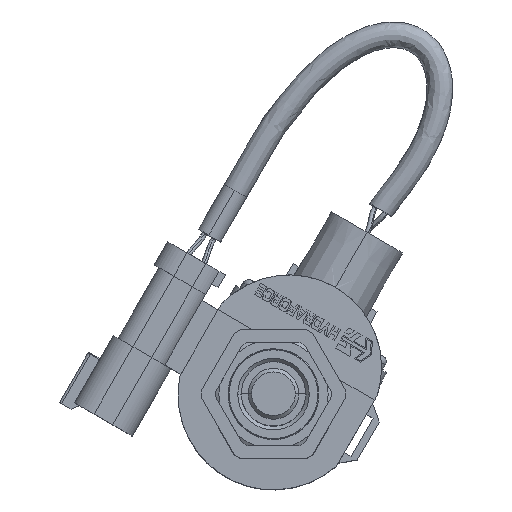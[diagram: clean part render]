
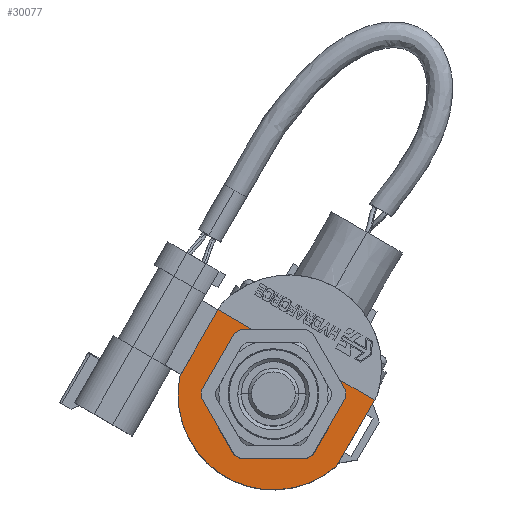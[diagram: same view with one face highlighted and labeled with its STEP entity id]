
A CAD part, top view. The second image highlights one B-rep face of the part: STEP entity #30077.
In plain terms, the highlighted planar face has unit normal (0, 0, 1).
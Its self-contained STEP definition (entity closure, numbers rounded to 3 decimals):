
#10391=CARTESIAN_POINT('',(0.,0.,24.384));
#10392=DIRECTION('',(0.,0.,1.));
#10393=DIRECTION('',(-0.803,0.596,0.));
#10394=AXIS2_PLACEMENT_3D('',#10391,#10392,#10393);
#10396=CARTESIAN_POINT('',(0.,0.,24.384));
#10397=DIRECTION('',(0.,0.,1.));
#10398=DIRECTION('',(-1.,0.,0.));
#10399=AXIS2_PLACEMENT_3D('',#10396,#10397,#10398);
#10401=CARTESIAN_POINT('',(0.,0.,24.384));
#10402=DIRECTION('',(0.,0.,1.));
#10403=DIRECTION('',(1.,0.,0.));
#10404=AXIS2_PLACEMENT_3D('',#10401,#10402,#10403);
#10406=DIRECTION('',(0.,1.,0.));
#10407=VECTOR('',#10406,2.921);
#10408=CARTESIAN_POINT('',(11.214,8.331,24.384));
#10409=LINE('',#10408,#10407);
#10410=DIRECTION('',(1.,0.,0.));
#10411=VECTOR('',#10410,11.062);
#10412=CARTESIAN_POINT('',(11.214,11.252,24.384));
#10413=LINE('',#10412,#10411);
#10414=DIRECTION('',(0.,-1.,0.));
#10415=VECTOR('',#10414,18.923);
#10416=CARTESIAN_POINT('',(22.276,11.252,24.384));
#10417=LINE('',#10416,#10415);
#10418=CARTESIAN_POINT('',(0.,0.,24.384));
#10419=DIRECTION('',(0.,0.,-1.));
#10420=DIRECTION('',(0.946,-0.326,0.));
#10421=AXIS2_PLACEMENT_3D('',#10418,#10419,#10420);
#10423=DIRECTION('',(0.,1.,0.));
#10424=VECTOR('',#10423,18.923);
#10425=CARTESIAN_POINT('',(-22.276,-7.671,24.384));
#10426=LINE('',#10425,#10424);
#10427=DIRECTION('',(1.,0.,0.));
#10428=VECTOR('',#10427,11.062);
#10429=CARTESIAN_POINT('',(-22.276,11.252,24.384));
#10430=LINE('',#10429,#10428);
#10431=DIRECTION('',(0.,-1.,0.));
#10432=VECTOR('',#10431,2.921);
#10433=CARTESIAN_POINT('',(-11.214,11.252,24.384));
#10434=LINE('',#10433,#10432);
#19620=CARTESIAN_POINT('',(-22.276,11.252,24.384));
#19621=VERTEX_POINT('',#19620);
#19622=CARTESIAN_POINT('',(-22.276,-7.671,24.384));
#19623=VERTEX_POINT('',#19622);
#19634=CARTESIAN_POINT('',(-11.214,8.331,24.384));
#19635=CARTESIAN_POINT('',(-13.97,0.,24.384));
#19636=VERTEX_POINT('',#19634);
#19637=VERTEX_POINT('',#19635);
#19638=CARTESIAN_POINT('',(13.97,0.,24.384));
#19639=VERTEX_POINT('',#19638);
#19640=CARTESIAN_POINT('',(11.214,8.331,24.384));
#19641=VERTEX_POINT('',#19640);
#19642=CARTESIAN_POINT('',(11.214,11.252,24.384));
#19643=VERTEX_POINT('',#19642);
#19644=CARTESIAN_POINT('',(22.276,11.252,24.384));
#19645=VERTEX_POINT('',#19644);
#19646=CARTESIAN_POINT('',(22.276,-7.671,24.384));
#19647=VERTEX_POINT('',#19646);
#19648=CARTESIAN_POINT('',(-11.214,11.252,24.384));
#19649=VERTEX_POINT('',#19648);
#30051=CARTESIAN_POINT('',(0.,11.252,24.384));
#30052=DIRECTION('',(0.,0.,1.));
#30053=DIRECTION('',(0.,1.,0.));
#30054=AXIS2_PLACEMENT_3D('',#30051,#30052,#30053);
#30055=PLANE('',#30054);
#30057=ORIENTED_EDGE('',*,*,#30056,.T.);
#30059=ORIENTED_EDGE('',*,*,#30058,.T.);
#30061=ORIENTED_EDGE('',*,*,#30060,.T.);
#30063=ORIENTED_EDGE('',*,*,#30062,.T.);
#30065=ORIENTED_EDGE('',*,*,#30064,.T.);
#30067=ORIENTED_EDGE('',*,*,#30066,.T.);
#30069=ORIENTED_EDGE('',*,*,#30068,.T.);
#30070=ORIENTED_EDGE('',*,*,#30032,.T.);
#30072=ORIENTED_EDGE('',*,*,#30071,.T.);
#30074=ORIENTED_EDGE('',*,*,#30073,.T.);
#30075=EDGE_LOOP('',(#30057,#30059,#30061,#30063,#30065,#30067,#30069,#30070,
#30072,#30074));
#30076=FACE_OUTER_BOUND('',#30075,.F.);
#30077=ADVANCED_FACE('',(#30076),#30055,.T.);
#10395=CIRCLE('',#10394,13.97);
#10400=CIRCLE('',#10399,13.97);
#10405=CIRCLE('',#10404,13.97);
#10422=CIRCLE('',#10421,23.56);
#30032=EDGE_CURVE('',#19623,#19621,#10426,.T.);
#30056=EDGE_CURVE('',#19636,#19637,#10395,.T.);
#30058=EDGE_CURVE('',#19637,#19639,#10400,.T.);
#30060=EDGE_CURVE('',#19639,#19641,#10405,.T.);
#30062=EDGE_CURVE('',#19641,#19643,#10409,.T.);
#30064=EDGE_CURVE('',#19643,#19645,#10413,.T.);
#30066=EDGE_CURVE('',#19645,#19647,#10417,.T.);
#30068=EDGE_CURVE('',#19647,#19623,#10422,.T.);
#30071=EDGE_CURVE('',#19621,#19649,#10430,.T.);
#30073=EDGE_CURVE('',#19649,#19636,#10434,.T.);
